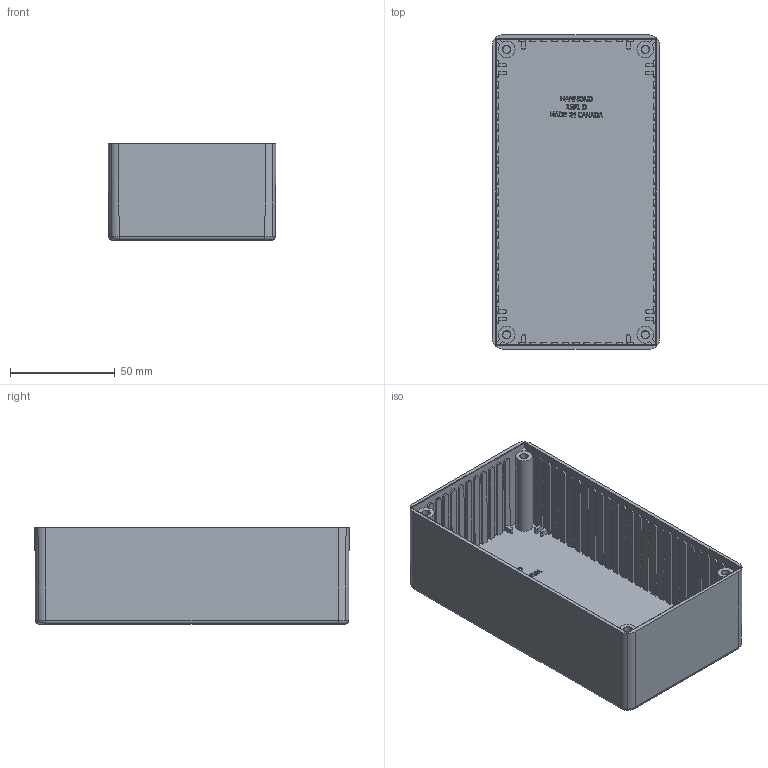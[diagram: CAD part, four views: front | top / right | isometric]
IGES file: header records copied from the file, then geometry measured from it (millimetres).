
Global section: file name: No Iges File Name specified; native system: AutoDesk Inventor R10; preprocessor: AutoDesk Inventor Iges Exporter R10; author: No Author specified; organization: No Organization specified; date: 20060220.094703; units: millimetre
Bounding box: 80 x 150 x 46.2 mm (x, y, z)
Volume: 78405.5 mm3; surface area: 75930.7 mm2
Topology: 1 solids, 1 shells, 747 faces, 2099 edges, 1394 vertices
Faces by surface type: plane 391, bspline 280, cylinder 72, revolution 4
